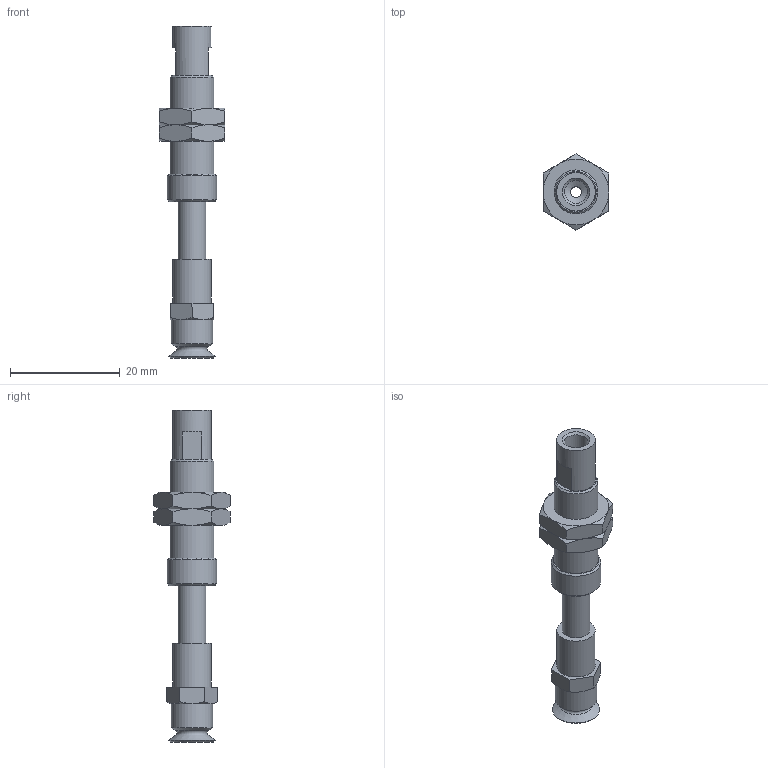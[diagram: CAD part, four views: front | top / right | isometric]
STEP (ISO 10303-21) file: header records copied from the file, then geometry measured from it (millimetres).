
FILE_DESCRIPTION(('STEP AP203'),'1');
FILE_NAME('-SPE.stp','2025-04-11T08:44:18',(' '),(' '),'Spatial InterOp 3D',' ',' ');
FILE_SCHEMA(('CONFIG_CONTROL_DESIGN'));
Length unit declared in the file: millimetre
Products named in the file (8): BNABPFTS-8A-10-※-SPE; ZIG; BODY; NUT; TN-PS-10-M5; Setting screws-TN-PS-10-M5; BPFG-8A-※
Assembly tree (7 placements, depth 3):
  BNABPFTS-8A-10-※-SPE
    ZIG
    BODY
    NUT
    NUT
    TN-PS-10-M5
      Setting screws-TN-PS-10-M5
    BPFG-8A-※
Bounding box: 12 x 13.86 x 60.5 mm (x, y, z)
Volume: 2597.5 mm3; surface area: 3883.4 mm2
Topology: 6 solids, 6 shells, 137 faces, 286 edges, 172 vertices
Faces by surface type: plane 57, cone 47, cylinder 23, torus 9, bspline 1
Full cylindrical faces by diameter (mm): 2 x3, 3.9 x1, 4 x4, 4.2 x2, 5 x3, 5.2 x1, 6 x2, 7 x2, 7.25 x2, 7.5 x1, 8 x1, 9 x1
Entity records: 3761 total; most frequent: CARTESIAN_POINT 741, DIRECTION 562, ORIENTED_EDGE 448, AXIS2_PLACEMENT_3D 253, EDGE_CURVE 224, EDGE_LOOP 210, FACE_OUTER_BOUND 170, VERTEX_POINT 160
